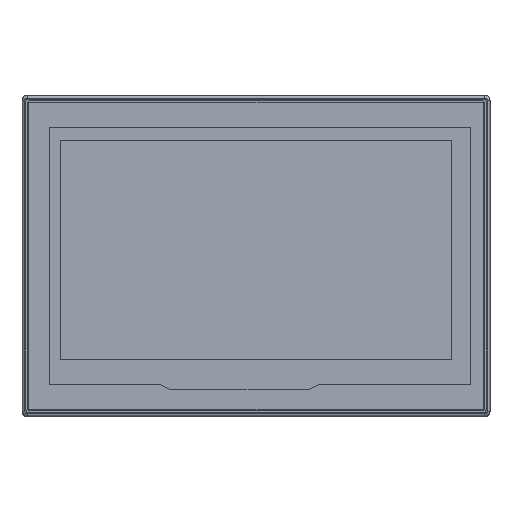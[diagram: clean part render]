
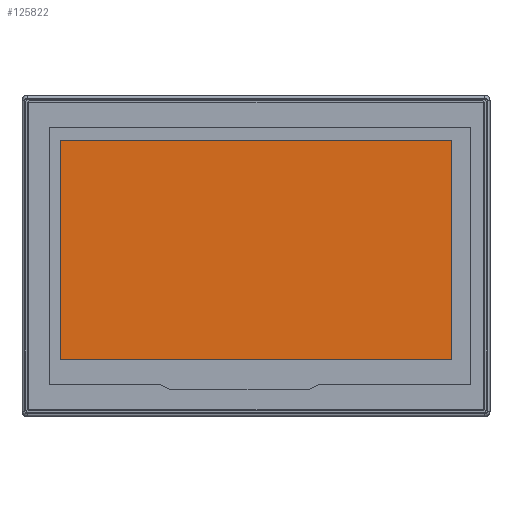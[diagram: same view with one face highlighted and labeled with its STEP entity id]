
A CAD part, top view. The second image highlights one B-rep face of the part: STEP entity #125822.
In plain terms, the highlighted planar face has unit normal (0, 0, 1).
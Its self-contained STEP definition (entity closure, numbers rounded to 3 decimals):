
#870 = ORIENTED_EDGE ( 'NONE', *, *, #106309, .T. ) ;
#9312 = DIRECTION ( 'NONE',  ( 0., 1., 0. ) ) ;
#13801 = CARTESIAN_POINT ( 'NONE',  ( -77.3, -43.05, 2.088 ) ) ;
#14318 = LINE ( 'NONE', #75171, #53470 ) ;
#15424 = EDGE_CURVE ( 'NONE', #126008, #17058, #14318, .T. ) ;
#16672 = VECTOR ( 'NONE', #9312, 1000. ) ;
#17058 = VERTEX_POINT ( 'NONE', #13801 ) ;
#18679 = CARTESIAN_POINT ( 'NONE',  ( 77.3, 43.55, 2.088 ) ) ;
#22566 = CARTESIAN_POINT ( 'NONE',  ( 77.3, 43.55, 2.088 ) ) ;
#25455 = CARTESIAN_POINT ( 'NONE',  ( 0., -2., 2.088 ) ) ;
#28739 = ORIENTED_EDGE ( 'NONE', *, *, #90062, .T. ) ;
#38105 = CARTESIAN_POINT ( 'NONE',  ( -77.3, -43.05, 2.088 ) ) ;
#41007 = ORIENTED_EDGE ( 'NONE', *, *, #135081, .T. ) ;
#49575 = DIRECTION ( 'NONE',  ( -1., 0., 0. ) ) ;
#53080 = LINE ( 'NONE', #38105, #139112 ) ;
#53470 = VECTOR ( 'NONE', #151990, 1000. ) ;
#66068 = VERTEX_POINT ( 'NONE', #22566 ) ;
#67663 = EDGE_LOOP ( 'NONE', ( #870, #195956, #28739, #41007 ) ) ;
#75171 = CARTESIAN_POINT ( 'NONE',  ( -77.3, 43.55, 2.088 ) ) ;
#84119 = CARTESIAN_POINT ( 'NONE',  ( 77.3, -43.05, 2.088 ) ) ;
#86285 = DIRECTION ( 'NONE',  ( 1., 0., 0. ) ) ;
#90062 = EDGE_CURVE ( 'NONE', #17058, #105850, #53080, .T. ) ;
#100065 = LINE ( 'NONE', #84119, #16672 ) ;
#105850 = VERTEX_POINT ( 'NONE', #120736 ) ;
#106309 = EDGE_CURVE ( 'NONE', #66068, #126008, #189223, .T. ) ;
#120736 = CARTESIAN_POINT ( 'NONE',  ( 77.3, -43.05, 2.088 ) ) ;
#125822 = ADVANCED_FACE ( 'NONE', ( #166074 ), #195038, .T. ) ;
#126008 = VERTEX_POINT ( 'NONE', #169998 ) ;
#133188 = DIRECTION ( 'NONE',  ( 0., 0., 1. ) ) ;
#135081 = EDGE_CURVE ( 'NONE', #105850, #66068, #100065, .T. ) ;
#139112 = VECTOR ( 'NONE', #171824, 1000. ) ;
#151990 = DIRECTION ( 'NONE',  ( 0., -1., 0. ) ) ;
#166074 = FACE_OUTER_BOUND ( 'NONE', #67663, .T. ) ;
#169998 = CARTESIAN_POINT ( 'NONE',  ( -77.3, 43.55, 2.088 ) ) ;
#171824 = DIRECTION ( 'NONE',  ( 1., 0., 0. ) ) ;
#175544 = VECTOR ( 'NONE', #49575, 1000. ) ;
#179253 = AXIS2_PLACEMENT_3D ( 'NONE', #25455, #133188, #86285 ) ;
#189223 = LINE ( 'NONE', #18679, #175544 ) ;
#195038 = PLANE ( 'NONE',  #179253 ) ;
#195956 = ORIENTED_EDGE ( 'NONE', *, *, #15424, .T. ) ;
